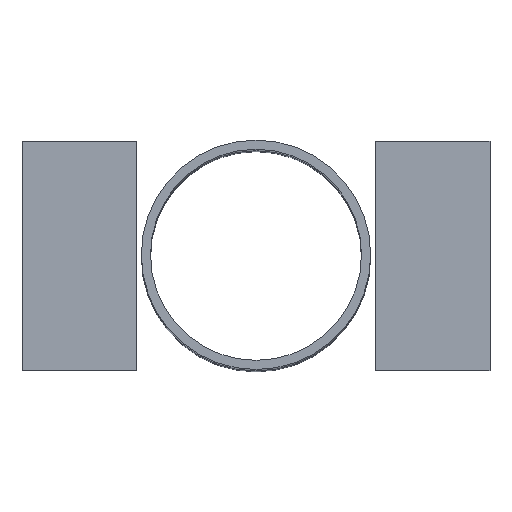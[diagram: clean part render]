
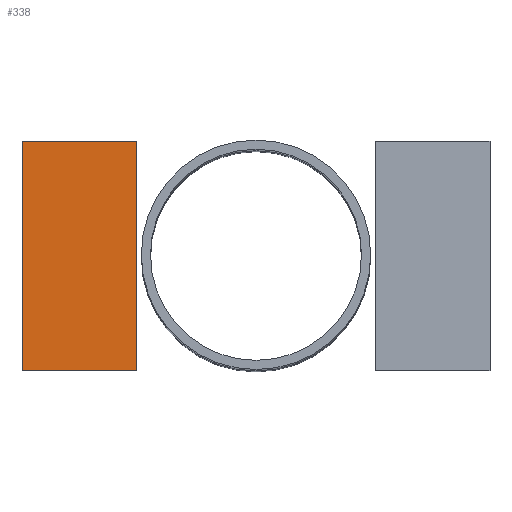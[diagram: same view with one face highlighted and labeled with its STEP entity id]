
A CAD part, top view. The second image highlights one B-rep face of the part: STEP entity #338.
In plain terms, the highlighted planar face has unit normal (0, 0, 1).
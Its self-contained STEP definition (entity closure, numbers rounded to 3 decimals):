
#24 = VERTEX_POINT('',#25);
#25 = CARTESIAN_POINT('',(-510.,-250.,1500.));
#32 = PLANE('',#33);
#33 = AXIS2_PLACEMENT_3D('',#34,#35,#36);
#34 = CARTESIAN_POINT('',(-510.,-250.,1250.));
#35 = DIRECTION('',(1.,0.,0.));
#36 = DIRECTION('',(0.,0.,1.));
#44 = PLANE('',#45);
#45 = AXIS2_PLACEMENT_3D('',#46,#47,#48);
#46 = CARTESIAN_POINT('',(-510.,-250.,1250.));
#47 = DIRECTION('',(0.,1.,0.));
#48 = DIRECTION('',(0.,0.,1.));
#85 = VERTEX_POINT('',#86);
#86 = CARTESIAN_POINT('',(-510.,250.,1500.));
#100 = PLANE('',#101);
#101 = AXIS2_PLACEMENT_3D('',#102,#103,#104);
#102 = CARTESIAN_POINT('',(-510.,250.,1250.));
#103 = DIRECTION('',(0.,1.,0.));
#104 = DIRECTION('',(0.,0.,1.));
#112 = EDGE_CURVE('',#24,#85,#113,.T.);
#113 = SURFACE_CURVE('',#114,(#118,#125),.PCURVE_S1.);
#114 = LINE('',#115,#116);
#115 = CARTESIAN_POINT('',(-510.,-250.,1500.));
#116 = VECTOR('',#117,1.);
#117 = DIRECTION('',(0.,1.,0.));
#118 = PCURVE('',#32,#119);
#119 = DEFINITIONAL_REPRESENTATION('',(#120),#124);
#120 = LINE('',#121,#122);
#121 = CARTESIAN_POINT('',(250.,0.));
#122 = VECTOR('',#123,1.);
#123 = DIRECTION('',(0.,-1.));
#124 = ( GEOMETRIC_REPRESENTATION_CONTEXT(2) 
PARAMETRIC_REPRESENTATION_CONTEXT() REPRESENTATION_CONTEXT('2D SPACE',''
  ) );
#125 = PCURVE('',#126,#131);
#126 = PLANE('',#127);
#127 = AXIS2_PLACEMENT_3D('',#128,#129,#130);
#128 = CARTESIAN_POINT('',(-510.,-250.,1500.));
#129 = DIRECTION('',(0.,0.,1.));
#130 = DIRECTION('',(1.,0.,0.));
#131 = DEFINITIONAL_REPRESENTATION('',(#132),#136);
#132 = LINE('',#133,#134);
#133 = CARTESIAN_POINT('',(0.,0.));
#134 = VECTOR('',#135,1.);
#135 = DIRECTION('',(0.,1.));
#136 = ( GEOMETRIC_REPRESENTATION_CONTEXT(2) 
PARAMETRIC_REPRESENTATION_CONTEXT() REPRESENTATION_CONTEXT('2D SPACE',''
  ) );
#144 = VERTEX_POINT('',#145);
#145 = CARTESIAN_POINT('',(-260.,-250.,1500.));
#152 = PLANE('',#153);
#153 = AXIS2_PLACEMENT_3D('',#154,#155,#156);
#154 = CARTESIAN_POINT('',(-260.,-250.,1250.));
#155 = DIRECTION('',(1.,0.,0.));
#156 = DIRECTION('',(0.,0.,1.));
#195 = VERTEX_POINT('',#196);
#196 = CARTESIAN_POINT('',(-260.,250.,1500.));
#217 = EDGE_CURVE('',#144,#195,#218,.T.);
#218 = SURFACE_CURVE('',#219,(#223,#230),.PCURVE_S1.);
#219 = LINE('',#220,#221);
#220 = CARTESIAN_POINT('',(-260.,-250.,1500.));
#221 = VECTOR('',#222,1.);
#222 = DIRECTION('',(0.,1.,0.));
#223 = PCURVE('',#152,#224);
#224 = DEFINITIONAL_REPRESENTATION('',(#225),#229);
#225 = LINE('',#226,#227);
#226 = CARTESIAN_POINT('',(250.,0.));
#227 = VECTOR('',#228,1.);
#228 = DIRECTION('',(0.,-1.));
#229 = ( GEOMETRIC_REPRESENTATION_CONTEXT(2) 
PARAMETRIC_REPRESENTATION_CONTEXT() REPRESENTATION_CONTEXT('2D SPACE',''
  ) );
#230 = PCURVE('',#126,#231);
#231 = DEFINITIONAL_REPRESENTATION('',(#232),#236);
#232 = LINE('',#233,#234);
#233 = CARTESIAN_POINT('',(250.,0.));
#234 = VECTOR('',#235,1.);
#235 = DIRECTION('',(0.,1.));
#236 = ( GEOMETRIC_REPRESENTATION_CONTEXT(2) 
PARAMETRIC_REPRESENTATION_CONTEXT() REPRESENTATION_CONTEXT('2D SPACE',''
  ) );
#263 = EDGE_CURVE('',#24,#144,#264,.T.);
#264 = SURFACE_CURVE('',#265,(#269,#276),.PCURVE_S1.);
#265 = LINE('',#266,#267);
#266 = CARTESIAN_POINT('',(-510.,-250.,1500.));
#267 = VECTOR('',#268,1.);
#268 = DIRECTION('',(1.,0.,0.));
#269 = PCURVE('',#44,#270);
#270 = DEFINITIONAL_REPRESENTATION('',(#271),#275);
#271 = LINE('',#272,#273);
#272 = CARTESIAN_POINT('',(250.,0.));
#273 = VECTOR('',#274,1.);
#274 = DIRECTION('',(0.,1.));
#275 = ( GEOMETRIC_REPRESENTATION_CONTEXT(2) 
PARAMETRIC_REPRESENTATION_CONTEXT() REPRESENTATION_CONTEXT('2D SPACE',''
  ) );
#276 = PCURVE('',#126,#277);
#277 = DEFINITIONAL_REPRESENTATION('',(#278),#282);
#278 = LINE('',#279,#280);
#279 = CARTESIAN_POINT('',(0.,0.));
#280 = VECTOR('',#281,1.);
#281 = DIRECTION('',(1.,0.));
#282 = ( GEOMETRIC_REPRESENTATION_CONTEXT(2) 
PARAMETRIC_REPRESENTATION_CONTEXT() REPRESENTATION_CONTEXT('2D SPACE',''
  ) );
#310 = EDGE_CURVE('',#85,#195,#311,.T.);
#311 = SURFACE_CURVE('',#312,(#316,#323),.PCURVE_S1.);
#312 = LINE('',#313,#314);
#313 = CARTESIAN_POINT('',(-510.,250.,1500.));
#314 = VECTOR('',#315,1.);
#315 = DIRECTION('',(1.,0.,0.));
#316 = PCURVE('',#100,#317);
#317 = DEFINITIONAL_REPRESENTATION('',(#318),#322);
#318 = LINE('',#319,#320);
#319 = CARTESIAN_POINT('',(250.,0.));
#320 = VECTOR('',#321,1.);
#321 = DIRECTION('',(0.,1.));
#322 = ( GEOMETRIC_REPRESENTATION_CONTEXT(2) 
PARAMETRIC_REPRESENTATION_CONTEXT() REPRESENTATION_CONTEXT('2D SPACE',''
  ) );
#323 = PCURVE('',#126,#324);
#324 = DEFINITIONAL_REPRESENTATION('',(#325),#329);
#325 = LINE('',#326,#327);
#326 = CARTESIAN_POINT('',(0.,500.));
#327 = VECTOR('',#328,1.);
#328 = DIRECTION('',(1.,0.));
#329 = ( GEOMETRIC_REPRESENTATION_CONTEXT(2) 
PARAMETRIC_REPRESENTATION_CONTEXT() REPRESENTATION_CONTEXT('2D SPACE',''
  ) );
#338 = ADVANCED_FACE('',(#339),#126,.T.);
#339 = FACE_BOUND('',#340,.T.);
#340 = EDGE_LOOP('',(#341,#342,#343,#344));
#341 = ORIENTED_EDGE('',*,*,#112,.F.);
#342 = ORIENTED_EDGE('',*,*,#263,.T.);
#343 = ORIENTED_EDGE('',*,*,#217,.T.);
#344 = ORIENTED_EDGE('',*,*,#310,.F.);
